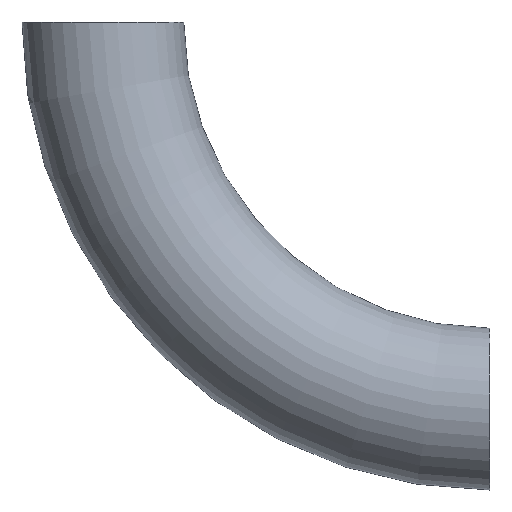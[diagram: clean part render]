
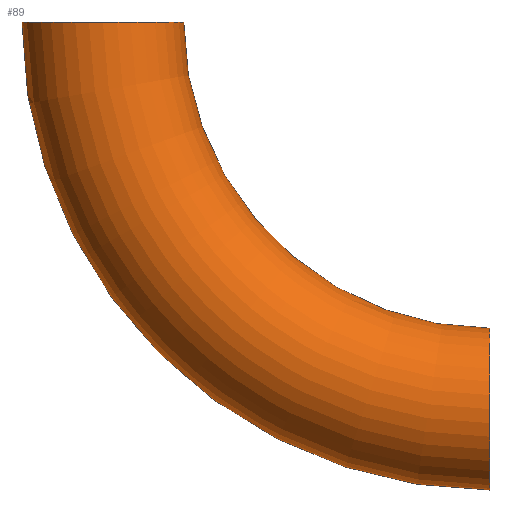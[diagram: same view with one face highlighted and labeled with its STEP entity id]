
A CAD part, front view. The second image highlights one B-rep face of the part: STEP entity #89.
In plain terms, the highlighted toroidal (fillet/blend) face has major radius 775 mm and minor radius 161.95 mm.
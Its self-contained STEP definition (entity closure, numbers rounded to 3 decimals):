
#1 = EDGE_CURVE ( 'NONE', #148, #190, #165, .T. ) ;
#3 = CARTESIAN_POINT ( 'NONE',  ( -613.05, 0., 0. ) ) ;
#15 = ORIENTED_EDGE ( 'NONE', *, *, #1, .F. ) ;
#19 = DIRECTION ( 'NONE',  ( -1., 0., 0. ) ) ;
#21 = ORIENTED_EDGE ( 'NONE', *, *, #152, .F. ) ;
#23 = DIRECTION ( 'NONE',  ( 0., 0., 1. ) ) ;
#32 = CARTESIAN_POINT ( 'NONE',  ( -775., 0., 0. ) ) ;
#34 = AXIS2_PLACEMENT_3D ( 'NONE', #117, #99, #23 ) ;
#60 = DIRECTION ( 'NONE',  ( 0., 1., 0. ) ) ;
#61 = AXIS2_PLACEMENT_3D ( 'NONE', #32, #74, #166 ) ;
#74 = DIRECTION ( 'NONE',  ( 0., 0., 1. ) ) ;
#81 = DIRECTION ( 'NONE',  ( 0., 0., 1. ) ) ;
#82 = CARTESIAN_POINT ( 'NONE',  ( 0., 0., -936.95 ) ) ;
#86 = CIRCLE ( 'NONE', #226, 161.95 ) ;
#87 = EDGE_CURVE ( 'NONE', #204, #90, #86, .T. ) ;
#89 = ADVANCED_FACE ( 'NONE', ( #93 ), #242, .T. ) ;
#90 = VERTEX_POINT ( 'NONE', #132 ) ;
#92 = ORIENTED_EDGE ( 'NONE', *, *, #87, .T. ) ;
#93 = FACE_OUTER_BOUND ( 'NONE', #131, .T. ) ;
#99 = DIRECTION ( 'NONE',  ( 0., 1., 0. ) ) ;
#105 = AXIS2_PLACEMENT_3D ( 'NONE', #231, #151, #81 ) ;
#117 = CARTESIAN_POINT ( 'NONE',  ( 0., 0., 0. ) ) ;
#131 = EDGE_LOOP ( 'NONE', ( #21, #92, #163, #15 ) ) ;
#132 = CARTESIAN_POINT ( 'NONE',  ( 0., 0., -613.05 ) ) ;
#148 = VERTEX_POINT ( 'NONE', #233 ) ;
#151 = DIRECTION ( 'NONE',  ( 0., 1., 0. ) ) ;
#152 = EDGE_CURVE ( 'NONE', #204, #148, #162, .T. ) ;
#162 = CIRCLE ( 'NONE', #34, 936.95 ) ;
#163 = ORIENTED_EDGE ( 'NONE', *, *, #174, .T. ) ;
#165 = CIRCLE ( 'NONE', #61, 161.95 ) ;
#166 = DIRECTION ( 'NONE',  ( 1., 0., 0. ) ) ;
#167 = CARTESIAN_POINT ( 'NONE',  ( 0., 0., -775. ) ) ;
#173 = CIRCLE ( 'NONE', #234, 613.05 ) ;
#174 = EDGE_CURVE ( 'NONE', #90, #190, #173, .T. ) ;
#190 = VERTEX_POINT ( 'NONE', #3 ) ;
#204 = VERTEX_POINT ( 'NONE', #82 ) ;
#215 = CARTESIAN_POINT ( 'NONE',  ( 0., 0., 0. ) ) ;
#226 = AXIS2_PLACEMENT_3D ( 'NONE', #167, #19, #252 ) ;
#231 = CARTESIAN_POINT ( 'NONE',  ( 0., 0., 0. ) ) ;
#233 = CARTESIAN_POINT ( 'NONE',  ( -936.95, 0., 0. ) ) ;
#234 = AXIS2_PLACEMENT_3D ( 'NONE', #215, #60, #235 ) ;
#235 = DIRECTION ( 'NONE',  ( 0., 0., 1. ) ) ;
#242 = TOROIDAL_SURFACE ( 'NONE', #105, 775., 161.95 ) ;
#252 = DIRECTION ( 'NONE',  ( 0., 0., 1. ) ) ;
